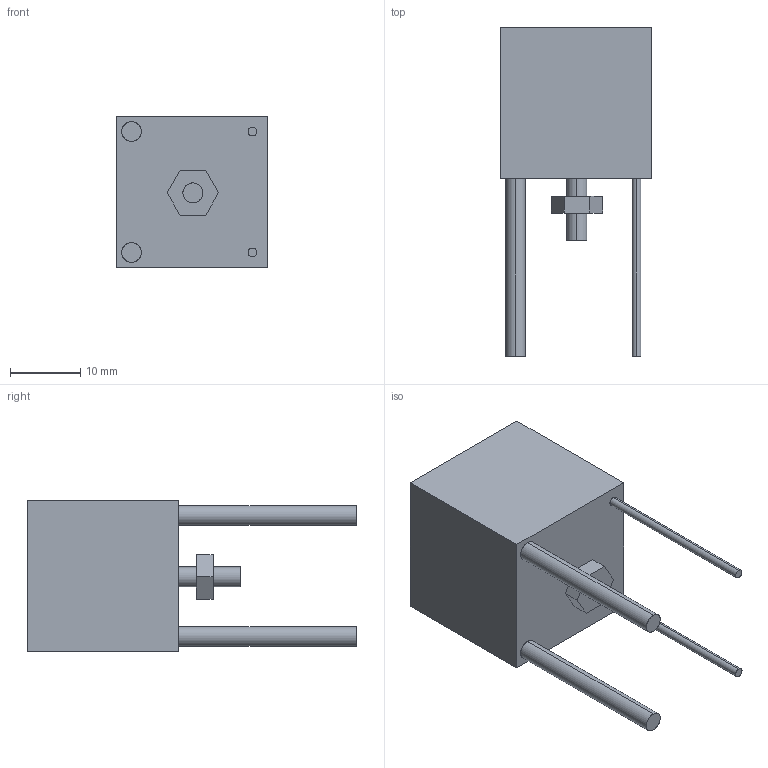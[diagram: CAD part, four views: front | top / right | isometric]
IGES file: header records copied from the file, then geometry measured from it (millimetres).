
Start section: SolidWorks IGES file using analytic representation for surfaces
Global section: file name: \\192.168.20.246\Eshare\Josh Moua\~For Darol\Checked .igs Files\Q60-100.IGS; native system: SolidWorks 2017; preprocessor: SolidWorks 2017; author: asmith; date: 171031.103528; units: inch
Bounding box: 21.59 x 46.99 x 21.59 mm (x, y, z)
Surface area: 3655.6 mm2 (no closed solid volume)
Topology: 0 solids, 0 shells, 31 faces, 428 edges, 428 vertices
Faces by surface type: bspline 19, revolution 12
